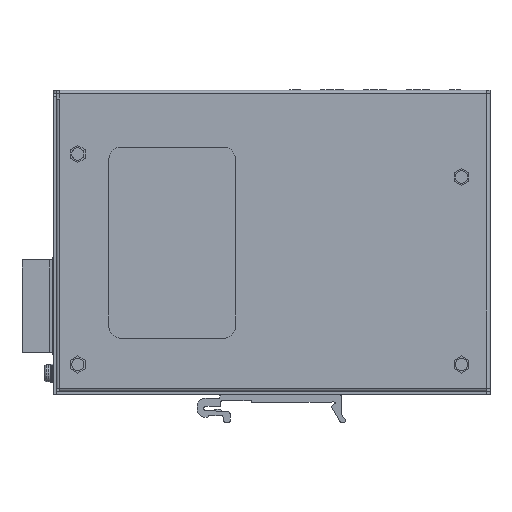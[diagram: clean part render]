
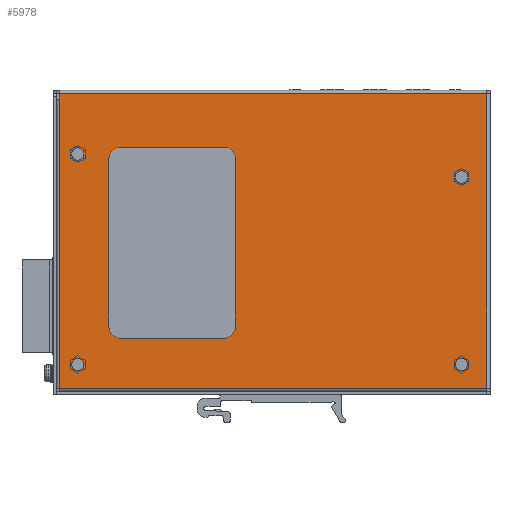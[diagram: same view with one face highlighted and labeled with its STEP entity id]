
A CAD part, front view. The second image highlights one B-rep face of the part: STEP entity #5978.
In plain terms, the highlighted planar face has unit normal (0, -1, 0).
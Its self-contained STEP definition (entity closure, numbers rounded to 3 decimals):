
#1=CARTESIAN_POINT('',(61.27,0.,-40.2));
#2=DIRECTION('',(0.,-1.,0.));
#3=DIRECTION('',(1.,0.,0.));
#4=AXIS2_PLACEMENT_3D('',#1,#2,#3);
#6=CARTESIAN_POINT('',(61.27,0.,-40.2));
#7=DIRECTION('',(0.,-1.,0.));
#8=DIRECTION('',(-1.,0.,0.));
#9=AXIS2_PLACEMENT_3D('',#6,#7,#8);
#11=CARTESIAN_POINT('',(61.27,0.,20.76));
#12=DIRECTION('',(0.,-1.,0.));
#13=DIRECTION('',(1.,0.,0.));
#14=AXIS2_PLACEMENT_3D('',#11,#12,#13);
#16=CARTESIAN_POINT('',(61.27,0.,20.76));
#17=DIRECTION('',(0.,-1.,0.));
#18=DIRECTION('',(-1.,0.,0.));
#19=AXIS2_PLACEMENT_3D('',#16,#17,#18);
#21=CARTESIAN_POINT('',(-63.5,0.,-40.2));
#22=DIRECTION('',(0.,-1.,0.));
#23=DIRECTION('',(1.,0.,0.));
#24=AXIS2_PLACEMENT_3D('',#21,#22,#23);
#26=CARTESIAN_POINT('',(-63.5,0.,-40.2));
#27=DIRECTION('',(0.,-1.,0.));
#28=DIRECTION('',(-1.,0.,0.));
#29=AXIS2_PLACEMENT_3D('',#26,#27,#28);
#31=CARTESIAN_POINT('',(-63.5,0.,28.22));
#32=DIRECTION('',(0.,-1.,0.));
#33=DIRECTION('',(1.,0.,0.));
#34=AXIS2_PLACEMENT_3D('',#31,#32,#33);
#36=CARTESIAN_POINT('',(-63.5,0.,28.22));
#37=DIRECTION('',(0.,-1.,0.));
#38=DIRECTION('',(-1.,0.,0.));
#39=AXIS2_PLACEMENT_3D('',#36,#37,#38);
#41=DIRECTION('',(-1.,0.,0.));
#42=VECTOR('',#41,33.2);
#43=CARTESIAN_POINT('',(-16.2,0.,30.5));
#44=LINE('',#43,#42);
#45=CARTESIAN_POINT('',(-49.4,0.,26.5));
#46=DIRECTION('',(0.,-1.,0.));
#47=DIRECTION('',(0.,0.,1.));
#48=AXIS2_PLACEMENT_3D('',#45,#46,#47);
#50=DIRECTION('',(0.,0.,-1.));
#51=VECTOR('',#50,54.2);
#52=CARTESIAN_POINT('',(-53.4,0.,26.5));
#53=LINE('',#52,#51);
#54=CARTESIAN_POINT('',(-49.4,0.,-27.7));
#55=DIRECTION('',(0.,-1.,0.));
#56=DIRECTION('',(-1.,0.,0.));
#57=AXIS2_PLACEMENT_3D('',#54,#55,#56);
#59=DIRECTION('',(1.,0.,0.));
#60=VECTOR('',#59,33.2);
#61=CARTESIAN_POINT('',(-49.4,0.,-31.7));
#62=LINE('',#61,#60);
#63=CARTESIAN_POINT('',(-16.2,0.,-27.7));
#64=DIRECTION('',(0.,-1.,0.));
#65=DIRECTION('',(0.,0.,-1.));
#66=AXIS2_PLACEMENT_3D('',#63,#64,#65);
#68=DIRECTION('',(0.,0.,1.));
#69=VECTOR('',#68,54.2);
#70=CARTESIAN_POINT('',(-12.2,0.,-27.7));
#71=LINE('',#70,#69);
#72=CARTESIAN_POINT('',(-16.2,0.,26.5));
#73=DIRECTION('',(0.,-1.,0.));
#74=DIRECTION('',(1.,0.,0.));
#75=AXIS2_PLACEMENT_3D('',#72,#73,#74);
#81=DIRECTION('',(0.,0.,-1.));
#82=VECTOR('',#81,1.8);
#83=CARTESIAN_POINT('',(-69.5,0.,47.9));
#84=LINE('',#83,#82);
#98=DIRECTION('',(0.,0.,-1.));
#99=VECTOR('',#98,94.);
#100=CARTESIAN_POINT('',(-69.5,0.,46.1));
#101=LINE('',#100,#99);
#230=DIRECTION('',(1.,0.,0.));
#231=VECTOR('',#230,139.);
#232=CARTESIAN_POINT('',(-69.5,0.,-47.9));
#233=LINE('',#232,#231);
#2296=DIRECTION('',(0.,0.,1.));
#2297=VECTOR('',#2296,95.8);
#2298=CARTESIAN_POINT('',(69.5,0.,-47.9));
#2299=LINE('',#2298,#2297);
#2415=DIRECTION('',(-1.,0.,0.));
#2416=VECTOR('',#2415,139.);
#2417=CARTESIAN_POINT('',(69.5,0.,47.9));
#2418=LINE('',#2417,#2416);
#4607=CARTESIAN_POINT('',(-69.5,0.,47.9));
#4608=CARTESIAN_POINT('',(-69.5,0.,46.1));
#4609=VERTEX_POINT('',#4607);
#4610=VERTEX_POINT('',#4608);
#4611=CARTESIAN_POINT('',(69.5,0.,47.9));
#4612=VERTEX_POINT('',#4611);
#4613=CARTESIAN_POINT('',(69.5,0.,-47.9));
#4614=VERTEX_POINT('',#4613);
#4615=CARTESIAN_POINT('',(-69.5,0.,-47.9));
#4616=VERTEX_POINT('',#4615);
#4617=CARTESIAN_POINT('',(63.27,0.,-40.2));
#4618=CARTESIAN_POINT('',(59.27,0.,-40.2));
#4619=VERTEX_POINT('',#4617);
#4620=VERTEX_POINT('',#4618);
#4621=CARTESIAN_POINT('',(63.27,0.,20.76));
#4622=CARTESIAN_POINT('',(59.27,0.,20.76));
#4623=VERTEX_POINT('',#4621);
#4624=VERTEX_POINT('',#4622);
#4625=CARTESIAN_POINT('',(-61.5,0.,-40.2));
#4626=CARTESIAN_POINT('',(-65.5,0.,-40.2));
#4627=VERTEX_POINT('',#4625);
#4628=VERTEX_POINT('',#4626);
#4629=CARTESIAN_POINT('',(-61.5,0.,28.22));
#4630=CARTESIAN_POINT('',(-65.5,0.,28.22));
#4631=VERTEX_POINT('',#4629);
#4632=VERTEX_POINT('',#4630);
#4633=CARTESIAN_POINT('',(-16.2,0.,30.5));
#4634=CARTESIAN_POINT('',(-49.4,0.,30.5));
#4635=VERTEX_POINT('',#4633);
#4636=VERTEX_POINT('',#4634);
#4637=CARTESIAN_POINT('',(-53.4,0.,26.5));
#4638=VERTEX_POINT('',#4637);
#4639=CARTESIAN_POINT('',(-53.4,0.,-27.7));
#4640=VERTEX_POINT('',#4639);
#4641=CARTESIAN_POINT('',(-49.4,0.,-31.7));
#4642=VERTEX_POINT('',#4641);
#4643=CARTESIAN_POINT('',(-16.2,0.,-31.7));
#4644=VERTEX_POINT('',#4643);
#4645=CARTESIAN_POINT('',(-12.2,0.,-27.7));
#4646=VERTEX_POINT('',#4645);
#4647=CARTESIAN_POINT('',(-12.2,0.,26.5));
#4648=VERTEX_POINT('',#4647);
#5919=CARTESIAN_POINT('',(0.,0.,0.));
#5920=DIRECTION('',(0.,1.,0.));
#5921=DIRECTION('',(1.,0.,0.));
#5922=AXIS2_PLACEMENT_3D('',#5919,#5920,#5921);
#5923=PLANE('',#5922);
#5925=ORIENTED_EDGE('',*,*,#5924,.F.);
#5927=ORIENTED_EDGE('',*,*,#5926,.F.);
#5929=ORIENTED_EDGE('',*,*,#5928,.F.);
#5931=ORIENTED_EDGE('',*,*,#5930,.F.);
#5933=ORIENTED_EDGE('',*,*,#5932,.F.);
#5934=EDGE_LOOP('',(#5925,#5927,#5929,#5931,#5933));
#5935=FACE_OUTER_BOUND('',#5934,.F.);
#5937=ORIENTED_EDGE('',*,*,#5936,.T.);
#5939=ORIENTED_EDGE('',*,*,#5938,.T.);
#5940=EDGE_LOOP('',(#5937,#5939));
#5941=FACE_BOUND('',#5940,.F.);
#5943=ORIENTED_EDGE('',*,*,#5942,.T.);
#5945=ORIENTED_EDGE('',*,*,#5944,.T.);
#5946=EDGE_LOOP('',(#5943,#5945));
#5947=FACE_BOUND('',#5946,.F.);
#5949=ORIENTED_EDGE('',*,*,#5948,.T.);
#5951=ORIENTED_EDGE('',*,*,#5950,.T.);
#5952=EDGE_LOOP('',(#5949,#5951));
#5953=FACE_BOUND('',#5952,.F.);
#5955=ORIENTED_EDGE('',*,*,#5954,.T.);
#5957=ORIENTED_EDGE('',*,*,#5956,.T.);
#5958=EDGE_LOOP('',(#5955,#5957));
#5959=FACE_BOUND('',#5958,.F.);
#5961=ORIENTED_EDGE('',*,*,#5960,.T.);
#5963=ORIENTED_EDGE('',*,*,#5962,.T.);
#5965=ORIENTED_EDGE('',*,*,#5964,.T.);
#5967=ORIENTED_EDGE('',*,*,#5966,.T.);
#5969=ORIENTED_EDGE('',*,*,#5968,.T.);
#5971=ORIENTED_EDGE('',*,*,#5970,.T.);
#5973=ORIENTED_EDGE('',*,*,#5972,.T.);
#5975=ORIENTED_EDGE('',*,*,#5974,.T.);
#5976=EDGE_LOOP('',(#5961,#5963,#5965,#5967,#5969,#5971,#5973,#5975));
#5977=FACE_BOUND('',#5976,.F.);
#5=CIRCLE('',#4,2.);
#10=CIRCLE('',#9,2.);
#15=CIRCLE('',#14,2.);
#20=CIRCLE('',#19,2.);
#25=CIRCLE('',#24,2.);
#30=CIRCLE('',#29,2.);
#35=CIRCLE('',#34,2.);
#40=CIRCLE('',#39,2.);
#49=CIRCLE('',#48,4.);
#58=CIRCLE('',#57,4.);
#67=CIRCLE('',#66,4.);
#76=CIRCLE('',#75,4.);
#5924=EDGE_CURVE('',#4609,#4610,#84,.T.);
#5926=EDGE_CURVE('',#4612,#4609,#2418,.T.);
#5928=EDGE_CURVE('',#4614,#4612,#2299,.T.);
#5930=EDGE_CURVE('',#4616,#4614,#233,.T.);
#5932=EDGE_CURVE('',#4610,#4616,#101,.T.);
#5936=EDGE_CURVE('',#4619,#4620,#5,.T.);
#5938=EDGE_CURVE('',#4620,#4619,#10,.T.);
#5942=EDGE_CURVE('',#4623,#4624,#15,.T.);
#5944=EDGE_CURVE('',#4624,#4623,#20,.T.);
#5948=EDGE_CURVE('',#4627,#4628,#25,.T.);
#5950=EDGE_CURVE('',#4628,#4627,#30,.T.);
#5954=EDGE_CURVE('',#4631,#4632,#35,.T.);
#5956=EDGE_CURVE('',#4632,#4631,#40,.T.);
#5960=EDGE_CURVE('',#4635,#4636,#44,.T.);
#5962=EDGE_CURVE('',#4636,#4638,#49,.T.);
#5964=EDGE_CURVE('',#4638,#4640,#53,.T.);
#5966=EDGE_CURVE('',#4640,#4642,#58,.T.);
#5968=EDGE_CURVE('',#4642,#4644,#62,.T.);
#5970=EDGE_CURVE('',#4644,#4646,#67,.T.);
#5972=EDGE_CURVE('',#4646,#4648,#71,.T.);
#5974=EDGE_CURVE('',#4648,#4635,#76,.T.);
#5978=ADVANCED_FACE('',(#5935,#5941,#5947,#5953,#5959,#5977),#5923,.F.);
